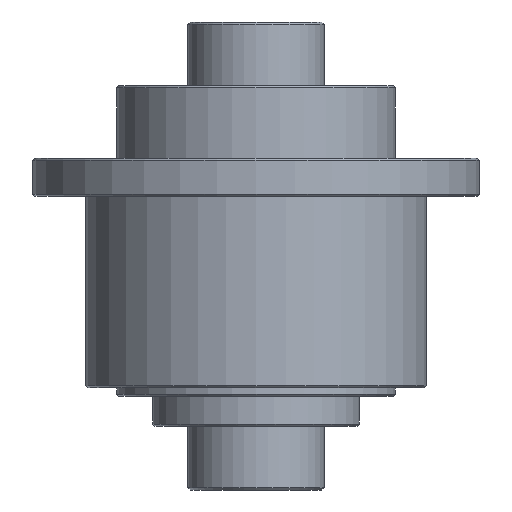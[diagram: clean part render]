
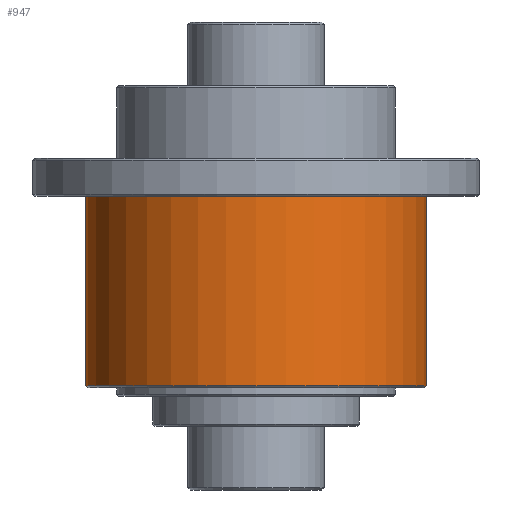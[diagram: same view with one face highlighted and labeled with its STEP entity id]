
A CAD part, front view. The second image highlights one B-rep face of the part: STEP entity #947.
In plain terms, the highlighted cylindrical face has radius 40 mm (diameter 80 mm), a partial arc.
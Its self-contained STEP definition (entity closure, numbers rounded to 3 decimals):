
#418 = ORIENTED_EDGE ( 'NONE', *, *, #3139, .T. ) ;
#460 = CARTESIAN_POINT ( 'NONE',  ( 0., 0., -26. ) ) ;
#720 = DIRECTION ( 'NONE',  ( 0., 0., 1. ) ) ;
#735 = DIRECTION ( 'NONE',  ( 1., 0., 0. ) ) ;
#794 = LINE ( 'NONE', #1695, #1394 ) ;
#947 = ADVANCED_FACE ( 'NONE', ( #1072 ), #2218, .T. ) ;
#1072 = FACE_OUTER_BOUND ( 'NONE', #1149, .T. ) ;
#1149 = EDGE_LOOP ( 'NONE', ( #3026, #418, #1768, #2430 ) ) ;
#1247 = CARTESIAN_POINT ( 'NONE',  ( 40., 0., -70.5 ) ) ;
#1310 = EDGE_CURVE ( 'NONE', #1665, #1366, #1712, .T. ) ;
#1366 = VERTEX_POINT ( 'NONE', #2939 ) ;
#1394 = VECTOR ( 'NONE', #3194, 1000. ) ;
#1431 = AXIS2_PLACEMENT_3D ( 'NONE', #3273, #3019, #1769 ) ;
#1618 = EDGE_CURVE ( 'NONE', #2622, #1633, #794, .T. ) ;
#1633 = VERTEX_POINT ( 'NONE', #1936 ) ;
#1662 = CIRCLE ( 'NONE', #2538, 40. ) ;
#1665 = VERTEX_POINT ( 'NONE', #1247 ) ;
#1695 = CARTESIAN_POINT ( 'NONE',  ( -40., 0., 4. ) ) ;
#1712 = LINE ( 'NONE', #2425, #2961 ) ;
#1768 = ORIENTED_EDGE ( 'NONE', *, *, #1310, .T. ) ;
#1769 = DIRECTION ( 'NONE',  ( 1., 0., 0. ) ) ;
#1936 = CARTESIAN_POINT ( 'NONE',  ( -40., 0., -26. ) ) ;
#2200 = CARTESIAN_POINT ( 'NONE',  ( 0., 0., -70.5 ) ) ;
#2216 = DIRECTION ( 'NONE',  ( 0., 0., 1. ) ) ;
#2218 = CYLINDRICAL_SURFACE ( 'NONE', #1431, 40. ) ;
#2425 = CARTESIAN_POINT ( 'NONE',  ( 40., 0., 4. ) ) ;
#2430 = ORIENTED_EDGE ( 'NONE', *, *, #3160, .F. ) ;
#2468 = DIRECTION ( 'NONE',  ( 1., 0., 0. ) ) ;
#2485 = AXIS2_PLACEMENT_3D ( 'NONE', #460, #2216, #735 ) ;
#2535 = CARTESIAN_POINT ( 'NONE',  ( -40., 0., -70.5 ) ) ;
#2538 = AXIS2_PLACEMENT_3D ( 'NONE', #2200, #720, #2468 ) ;
#2622 = VERTEX_POINT ( 'NONE', #2535 ) ;
#2670 = DIRECTION ( 'NONE',  ( 0., 0., 1. ) ) ;
#2939 = CARTESIAN_POINT ( 'NONE',  ( 40., 0., -26. ) ) ;
#2961 = VECTOR ( 'NONE', #2670, 1000. ) ;
#2994 = CIRCLE ( 'NONE', #2485, 40. ) ;
#3019 = DIRECTION ( 'NONE',  ( 0., 0., 1. ) ) ;
#3026 = ORIENTED_EDGE ( 'NONE', *, *, #1618, .F. ) ;
#3139 = EDGE_CURVE ( 'NONE', #2622, #1665, #1662, .T. ) ;
#3160 = EDGE_CURVE ( 'NONE', #1633, #1366, #2994, .T. ) ;
#3194 = DIRECTION ( 'NONE',  ( 0., 0., 1. ) ) ;
#3273 = CARTESIAN_POINT ( 'NONE',  ( 0., 0., 4. ) ) ;
